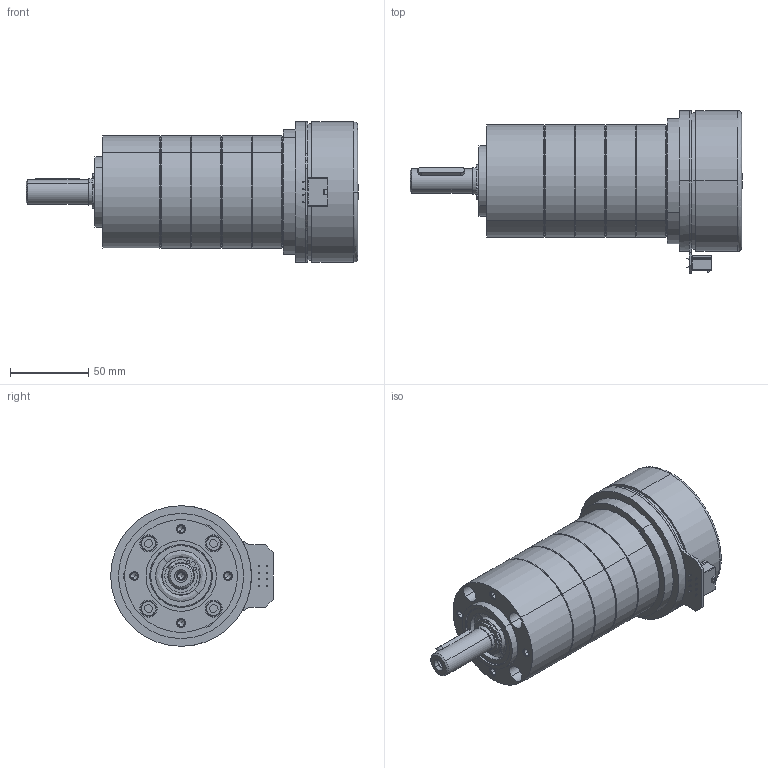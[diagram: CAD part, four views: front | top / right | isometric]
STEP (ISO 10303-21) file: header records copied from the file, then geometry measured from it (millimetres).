
FILE_DESCRIPTION (( 'STEP AP214' ), '1' );
FILE_NAME ('6240902_EC90flat 400W_PM72 - S48.STEP', '2019-09-20T09:55:47', ( '' ), ( '' ), 'SwSTEP 2.0', 'SolidWorks 2018', '' );
FILE_SCHEMA (( 'AUTOMOTIVE_DESIGN' ));
Length unit declared in the file: millimetre
Products named in the file (16): 8004800_ANLAUFSCHEIBE_Z23_1ST_1; 8004822_LAGERFLANSCH_5; 5X5X30_D6885A_5; DIN998_PS_17X24X1_5; 8001939_LAGERBOLZEN_5; 1199388_5; PM72_4 Ｕages; 8006242_DICHTRING_5; 5966040_ADAPT-EC90fl-PM72; EC90fl-400W-V1; D625-6203-2RS_5; D471_17X1_5_5; D912_M6X40_1; 8006638_ABTRIEB_LK1_AF0_5; 8004806_ZAHNKRANZ_Z46_5; 6240902_EC90flat 400W_PM72 - S48
Assembly tree (29 placements, depth 4):
  6240902_EC90flat 400W_PM72 - S48
    PM72_4 Ｕages
      8004822_LAGERFLANSCH_5
      D625-6203-2RS_5  x2
      DIN998_PS_17X24X1_5  x2
      1199388_5
        8006638_ABTRIEB_LK1_AF0_5
        8001939_LAGERBOLZEN_5  x3
      D471_17X1_5_5
      5X5X30_D6885A_5
      8006242_DICHTRING_5  x5
      8004806_ZAHNKRANZ_Z46_5  x4
      D912_M6X40_1  x4
      8004800_ANLAUFSCHEIBE_Z23_1ST_1
    5966040_ADAPT-EC90fl-PM72
    EC90fl-400W-V1
Bounding box: 212.35 x 104 x 90 mm (x, y, z)
Volume: 498138.7 mm3; surface area: 198884.2 mm2
Topology: 25 solids, 42 shells, 1708 faces, 4648 edges, 3061 vertices
Faces by surface type: cylinder 774, plane 773, cone 97, bspline 64
Entity records: 31483 total; most frequent: CARTESIAN_POINT 6387, DIRECTION 5026, ORIENTED_EDGE 4734, EDGE_CURVE 2379, AXIS2_PLACEMENT_3D 1782, VERTEX_POINT 1569, LINE 1462, VECTOR 1462
